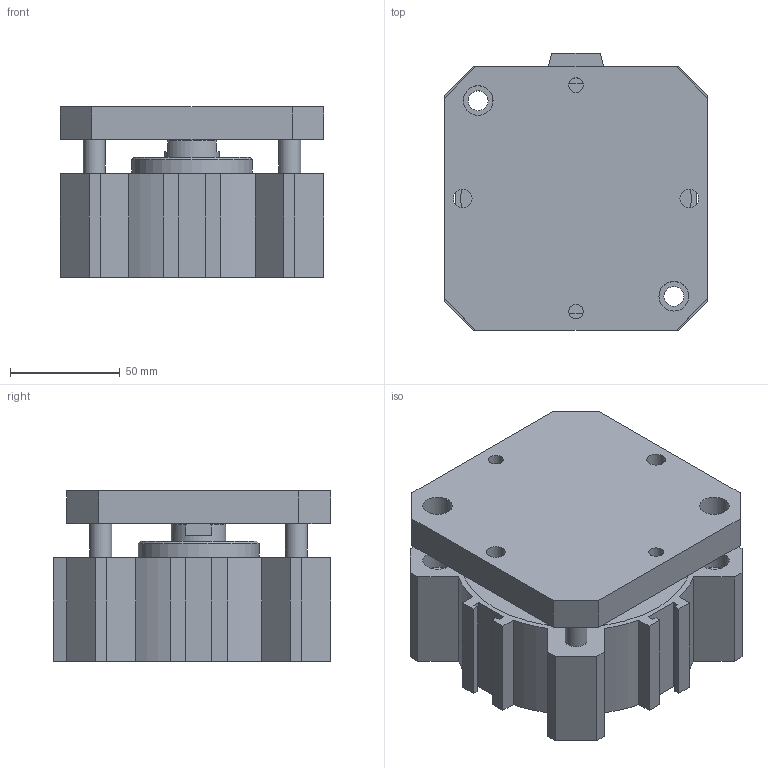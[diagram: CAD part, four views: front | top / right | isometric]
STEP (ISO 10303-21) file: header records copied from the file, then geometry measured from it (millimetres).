
FILE_DESCRIPTION(/* description */ (''),/* implementation_level */ '2;1');
FILE_NAME(/* name */ 'I:\Area Tecnica\Disegni\VARIE-3D\Componenti\1500\Ø100\15##_100_####_#\1501_100_0000_AR.stp',/* time_stamp */ '2016-08-24T15:08:53+02:00',/* author */ ('Maniean1'),/* organization */ (''),/* preprocessor_version */ 'ST-DEVELOPER v15.2',/* originating_system */ 'Autodesk Inventor 2014',/* authorisation */ '');
FILE_SCHEMA (('AUTOMOTIVE_DESIGN { 1 0 10303 214 3 1 1 }'));
Length unit declared in the file: millimetre
Products named in the file (3): C_1501_100_0000_AR; S_1501_100_0000_AR; 1501_100_0000_AR
Bounding box: 120 x 126 x 77.5 mm (x, y, z)
Volume: 746260.1 mm3; surface area: 147705.7 mm2
Topology: 2 solids, 2 shells, 139 faces, 345 edges, 231 vertices
Faces by surface type: plane 94, cylinder 40, cone 5
Full cylindrical faces by diameter (mm): 6.647 x2, 8.5 x2, 9 x4, 10 x4, 13.5 x10, 14.95 x2, 25 x2, 55 x2, 100 x2, 105 x2
Entity records: 3986 total; most frequent: CARTESIAN_POINT 680, DIRECTION 672, ORIENTED_EDGE 602, EDGE_CURVE 301, AXIS2_PLACEMENT_3D 232, VERTEX_POINT 222, EDGE_LOOP 215, LINE 208
